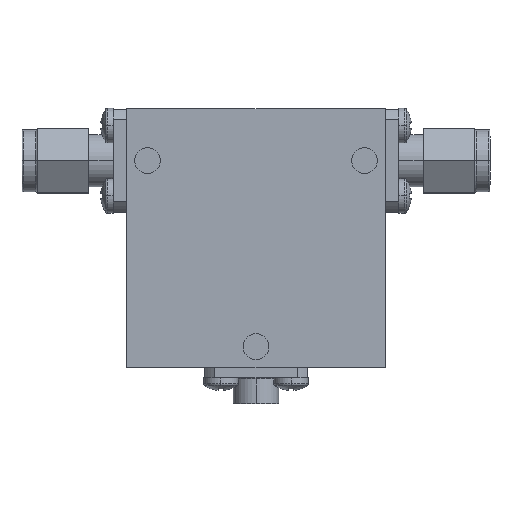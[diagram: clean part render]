
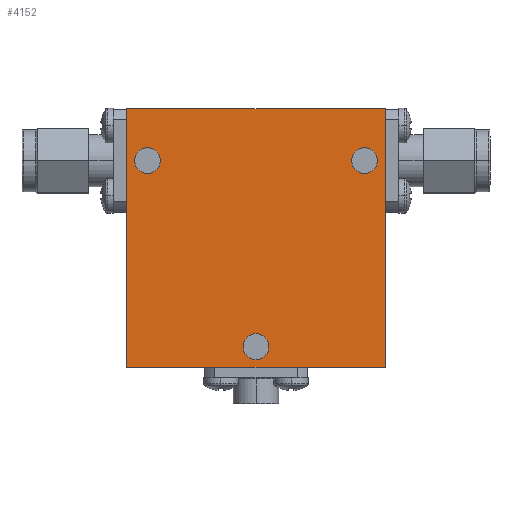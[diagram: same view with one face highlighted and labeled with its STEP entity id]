
A CAD part, top view. The second image highlights one B-rep face of the part: STEP entity #4152.
In plain terms, the highlighted planar face has unit normal (0, 0, 1).
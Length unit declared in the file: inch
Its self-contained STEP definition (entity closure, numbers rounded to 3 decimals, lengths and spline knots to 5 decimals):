
#35 = VERTEX_POINT ( 'NONE', #428 ) ;
#116 = DIRECTION ( 'NONE',  ( 0., 0., 1. ) ) ;
#130 = DIRECTION ( 'NONE',  ( 1., 0., 0. ) ) ;
#276 = VECTOR ( 'NONE', #1461, 39.37008 ) ;
#318 = CARTESIAN_POINT ( 'NONE',  ( 0.4625, 0.375, 0.35 ) ) ;
#352 = VERTEX_POINT ( 'NONE', #2381 ) ;
#405 = VERTEX_POINT ( 'NONE', #2653 ) ;
#414 = CARTESIAN_POINT ( 'NONE',  ( 0.625, 0.625, 0.35 ) ) ;
#428 = CARTESIAN_POINT ( 'NONE',  ( 0.625, -0.625, 0.35 ) ) ;
#514 = CARTESIAN_POINT ( 'NONE',  ( -0.625, 0.625, 0.35 ) ) ;
#539 = DIRECTION ( 'NONE',  ( 1., 0., 0. ) ) ;
#628 = EDGE_LOOP ( 'NONE', ( #2988, #2000 ) ) ;
#645 = EDGE_CURVE ( 'NONE', #1605, #352, #1819, .T. ) ;
#753 = ORIENTED_EDGE ( 'NONE', *, *, #3197, .F. ) ;
#866 = EDGE_CURVE ( 'NONE', #1744, #2774, #2189, .T. ) ;
#956 = CARTESIAN_POINT ( 'NONE',  ( -0.625, -0.625, 0.35 ) ) ;
#1009 = LINE ( 'NONE', #2888, #2538 ) ;
#1054 = EDGE_CURVE ( 'NONE', #2159, #405, #3701, .T. ) ;
#1080 = CARTESIAN_POINT ( 'NONE',  ( 0., -0.525, 0.35 ) ) ;
#1111 = CIRCLE ( 'NONE', #2399, 0.0625 ) ;
#1154 = CARTESIAN_POINT ( 'NONE',  ( 0.625, 0.625, 0.35 ) ) ;
#1158 = LINE ( 'NONE', #1154, #276 ) ;
#1246 = CIRCLE ( 'NONE', #2449, 0.0625 ) ;
#1278 = DIRECTION ( 'NONE',  ( -1., 0., 0. ) ) ;
#1416 = EDGE_CURVE ( 'NONE', #405, #2159, #1707, .T. ) ;
#1461 = DIRECTION ( 'NONE',  ( 0., 1., 0. ) ) ;
#1477 = EDGE_CURVE ( 'NONE', #3049, #35, #1009, .T. ) ;
#1544 = EDGE_CURVE ( 'NONE', #352, #1605, #3794, .T. ) ;
#1547 = CARTESIAN_POINT ( 'NONE',  ( -0.625, 0.625, 0.35 ) ) ;
#1605 = VERTEX_POINT ( 'NONE', #1934 ) ;
#1626 = DIRECTION ( 'NONE',  ( 0., 0., 1. ) ) ;
#1674 = CARTESIAN_POINT ( 'NONE',  ( 0., 0., 0.35 ) ) ;
#1684 = ORIENTED_EDGE ( 'NONE', *, *, #1054, .F. ) ;
#1699 = AXIS2_PLACEMENT_3D ( 'NONE', #2788, #4220, #130 ) ;
#1707 = CIRCLE ( 'NONE', #2380, 0.0625 ) ;
#1726 = VERTEX_POINT ( 'NONE', #2802 ) ;
#1744 = VERTEX_POINT ( 'NONE', #414 ) ;
#1819 = CIRCLE ( 'NONE', #1699, 0.0625 ) ;
#1859 = DIRECTION ( 'NONE',  ( 1., 0., 0. ) ) ;
#1934 = CARTESIAN_POINT ( 'NONE',  ( -0.5875, 0.375, 0.35 ) ) ;
#1947 = EDGE_CURVE ( 'NONE', #35, #1744, #1158, .T. ) ;
#2000 = ORIENTED_EDGE ( 'NONE', *, *, #645, .F. ) ;
#2010 = CARTESIAN_POINT ( 'NONE',  ( 0.0625, -0.525, 0.35 ) ) ;
#2030 = FACE_BOUND ( 'NONE', #3133, .T. ) ;
#2105 = DIRECTION ( 'NONE',  ( 1., 0., 0. ) ) ;
#2138 = EDGE_LOOP ( 'NONE', ( #4281, #2679, #4091, #3263 ) ) ;
#2144 = CARTESIAN_POINT ( 'NONE',  ( 0.525, 0.375, 0.35 ) ) ;
#2159 = VERTEX_POINT ( 'NONE', #318 ) ;
#2189 = LINE ( 'NONE', #1547, #4241 ) ;
#2380 = AXIS2_PLACEMENT_3D ( 'NONE', #2144, #116, #2478 ) ;
#2381 = CARTESIAN_POINT ( 'NONE',  ( -0.4625, 0.375, 0.35 ) ) ;
#2399 = AXIS2_PLACEMENT_3D ( 'NONE', #4037, #2736, #4052 ) ;
#2449 = AXIS2_PLACEMENT_3D ( 'NONE', #1080, #4106, #2105 ) ;
#2478 = DIRECTION ( 'NONE',  ( 1., 0., 0. ) ) ;
#2538 = VECTOR ( 'NONE', #539, 39.37008 ) ;
#2544 = FACE_OUTER_BOUND ( 'NONE', #2138, .T. ) ;
#2605 = LINE ( 'NONE', #2710, #4036 ) ;
#2653 = CARTESIAN_POINT ( 'NONE',  ( 0.5875, 0.375, 0.35 ) ) ;
#2679 = ORIENTED_EDGE ( 'NONE', *, *, #866, .T. ) ;
#2710 = CARTESIAN_POINT ( 'NONE',  ( -0.625, 0.625, 0.35 ) ) ;
#2736 = DIRECTION ( 'NONE',  ( 0., 0., 1. ) ) ;
#2760 = DIRECTION ( 'NONE',  ( 1., 0., 0. ) ) ;
#2774 = VERTEX_POINT ( 'NONE', #514 ) ;
#2788 = CARTESIAN_POINT ( 'NONE',  ( -0.525, 0.375, 0.35 ) ) ;
#2802 = CARTESIAN_POINT ( 'NONE',  ( -0.0625, -0.525, 0.35 ) ) ;
#2888 = CARTESIAN_POINT ( 'NONE',  ( -0.625, -0.625, 0.35 ) ) ;
#2891 = AXIS2_PLACEMENT_3D ( 'NONE', #3523, #3860, #1859 ) ;
#2988 = ORIENTED_EDGE ( 'NONE', *, *, #1544, .F. ) ;
#3016 = DIRECTION ( 'NONE',  ( 0., 0., 1. ) ) ;
#3048 = AXIS2_PLACEMENT_3D ( 'NONE', #1674, #1626, #3365 ) ;
#3049 = VERTEX_POINT ( 'NONE', #956 ) ;
#3053 = DIRECTION ( 'NONE',  ( 0., -1., 0. ) ) ;
#3113 = FACE_BOUND ( 'NONE', #628, .T. ) ;
#3133 = EDGE_LOOP ( 'NONE', ( #4041, #1684 ) ) ;
#3194 = VERTEX_POINT ( 'NONE', #2010 ) ;
#3197 = EDGE_CURVE ( 'NONE', #1726, #3194, #1246, .T. ) ;
#3263 = ORIENTED_EDGE ( 'NONE', *, *, #1477, .T. ) ;
#3329 = PLANE ( 'NONE',  #3048 ) ;
#3365 = DIRECTION ( 'NONE',  ( 1., 0., 0. ) ) ;
#3429 = CARTESIAN_POINT ( 'NONE',  ( 0.525, 0.375, 0.35 ) ) ;
#3455 = EDGE_LOOP ( 'NONE', ( #3942, #753 ) ) ;
#3523 = CARTESIAN_POINT ( 'NONE',  ( -0.525, 0.375, 0.35 ) ) ;
#3647 = FACE_BOUND ( 'NONE', #3455, .T. ) ;
#3684 = EDGE_CURVE ( 'NONE', #2774, #3049, #2605, .T. ) ;
#3701 = CIRCLE ( 'NONE', #3745, 0.0625 ) ;
#3745 = AXIS2_PLACEMENT_3D ( 'NONE', #3429, #3016, #2760 ) ;
#3794 = CIRCLE ( 'NONE', #2891, 0.0625 ) ;
#3860 = DIRECTION ( 'NONE',  ( 0., 0., 1. ) ) ;
#3942 = ORIENTED_EDGE ( 'NONE', *, *, #4342, .F. ) ;
#4036 = VECTOR ( 'NONE', #3053, 39.37008 ) ;
#4037 = CARTESIAN_POINT ( 'NONE',  ( 0., -0.525, 0.35 ) ) ;
#4041 = ORIENTED_EDGE ( 'NONE', *, *, #1416, .F. ) ;
#4052 = DIRECTION ( 'NONE',  ( 1., 0., 0. ) ) ;
#4091 = ORIENTED_EDGE ( 'NONE', *, *, #3684, .T. ) ;
#4106 = DIRECTION ( 'NONE',  ( 0., 0., 1. ) ) ;
#4152 = ADVANCED_FACE ( 'NONE', ( #2030, #3647, #3113, #2544 ), #3329, .T. ) ;
#4220 = DIRECTION ( 'NONE',  ( 0., 0., 1. ) ) ;
#4241 = VECTOR ( 'NONE', #1278, 39.37008 ) ;
#4281 = ORIENTED_EDGE ( 'NONE', *, *, #1947, .T. ) ;
#4342 = EDGE_CURVE ( 'NONE', #3194, #1726, #1111, .T. ) ;
